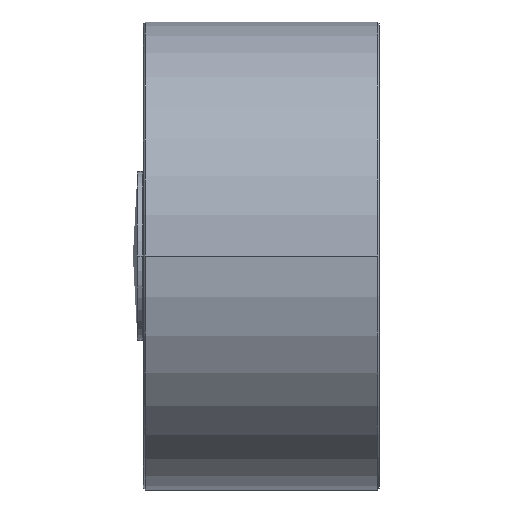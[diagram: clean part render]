
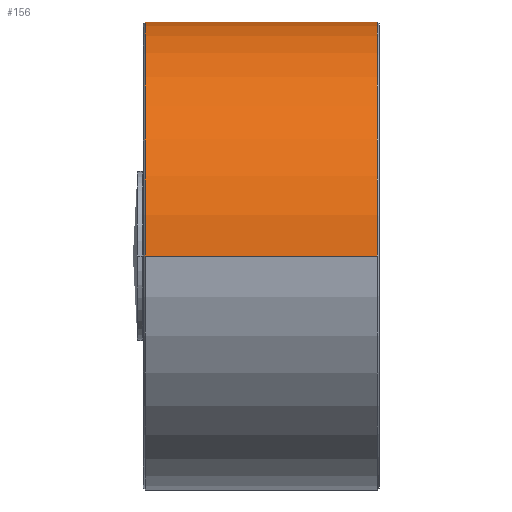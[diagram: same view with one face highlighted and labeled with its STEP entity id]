
A CAD part, left-side view. The second image highlights one B-rep face of the part: STEP entity #156.
In plain terms, the highlighted cylindrical face has radius 59.5 mm (diameter 119 mm), a partial arc.
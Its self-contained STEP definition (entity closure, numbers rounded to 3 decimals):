
#156=ADVANCED_FACE('',(#357),#358,.T.);
#357=FACE_OUTER_BOUND('',#717,.T.);
#358=CYLINDRICAL_SURFACE('',#718,59.5);
#717=EDGE_LOOP('',(#1241,#1242,#1243,#1244,#1245,#1246));
#718=AXIS2_PLACEMENT_3D('',#1247,#1248,#1249);
#1241=ORIENTED_EDGE('',*,*,#2340,.F.);
#1242=ORIENTED_EDGE('',*,*,#2341,.F.);
#1243=ORIENTED_EDGE('',*,*,#2342,.F.);
#1244=ORIENTED_EDGE('',*,*,#2339,.F.);
#1245=ORIENTED_EDGE('',*,*,#2343,.F.);
#1246=ORIENTED_EDGE('',*,*,#2344,.T.);
#1247=CARTESIAN_POINT('',(0.0,30.0,0.0));
#1248=DIRECTION('',(0.0,-1.0,0.0));
#1249=DIRECTION('',(1.0,0.0,0.0));
#2339=EDGE_CURVE('',#2788,#2784,#2790,.T.);
#2340=EDGE_CURVE('',#2791,#2792,#2793,.T.);
#2341=EDGE_CURVE('',#2794,#2791,#2795,.T.);
#2342=EDGE_CURVE('',#2784,#2794,#2796,.T.);
#2343=EDGE_CURVE('',#2797,#2788,#2798,.T.);
#2344=EDGE_CURVE('',#2797,#2792,#2799,.T.);
#2784=VERTEX_POINT('',#3471);
#2788=VERTEX_POINT('',#3476);
#2790=CIRCLE('',#3479,59.5);
#2791=VERTEX_POINT('',#3480);
#2792=VERTEX_POINT('',#3481);
#2793=LINE('',#3482,#3483);
#2794=VERTEX_POINT('',#3484);
#2795=CIRCLE('',#3485,59.5);
#2796=LINE('',#3486,#3487);
#2797=VERTEX_POINT('',#3488);
#2798=LINE('',#3489,#3490);
#2799=B_SPLINE_CURVE_WITH_KNOTS('',3,(#3491,#3492,#3493,#3494,#3495,#3496,#3497,#3498,#3499,#3500,#3501,#3502,#3503,#3504,#3505,#3506,#3507,#3508),.UNSPECIFIED.,.F.,.F.,(4,2,2,2,2,2,2,2,4),(0.98,1.225,1.47,1.715,1.96,2.206,2.451,2.696,2.941),.UNSPECIFIED.);
#3471=CARTESIAN_POINT('',(-59.5,0.5,0.));
#3476=CARTESIAN_POINT('',(59.5,0.5,0.));
#3479=AXIS2_PLACEMENT_3D('',#4421,#4422,#4423);
#3480=CARTESIAN_POINT('',(59.5,59.5,0.));
#3481=CARTESIAN_POINT('',(59.5,15.5,0.));
#3482=CARTESIAN_POINT('',(59.5,30.0,0.));
#3483=VECTOR('',#4424,1.0);
#3484=CARTESIAN_POINT('',(-59.5,59.5,0.));
#3485=AXIS2_PLACEMENT_3D('',#4425,#4426,#4427);
#3486=CARTESIAN_POINT('',(-59.5,30.0,0.));
#3487=VECTOR('',#4428,1.0);
#3488=CARTESIAN_POINT('',(59.5,2.5,0.0));
#3489=CARTESIAN_POINT('',(59.5,30.0,0.));
#3490=VECTOR('',#4429,1.0);
#3491=CARTESIAN_POINT('',(59.5,2.5,0.));
#3492=CARTESIAN_POINT('',(59.5,2.5,0.817));
#3493=CARTESIAN_POINT('',(59.481,2.663,1.688));
#3494=CARTESIAN_POINT('',(59.414,3.327,3.289));
#3495=CARTESIAN_POINT('',(59.367,3.827,4.019));
#3496=CARTESIAN_POINT('',(59.278,4.981,5.173));
#3497=CARTESIAN_POINT('',(59.23,5.711,5.673));
#3498=CARTESIAN_POINT('',(59.163,7.312,6.337));
#3499=CARTESIAN_POINT('',(59.144,8.183,6.5));
#3500=CARTESIAN_POINT('',(59.144,9.817,6.5));
#3501=CARTESIAN_POINT('',(59.163,10.688,6.337));
#3502=CARTESIAN_POINT('',(59.23,12.289,5.673));
#3503=CARTESIAN_POINT('',(59.278,13.019,5.173));
#3504=CARTESIAN_POINT('',(59.367,14.173,4.019));
#3505=CARTESIAN_POINT('',(59.414,14.673,3.289));
#3506=CARTESIAN_POINT('',(59.481,15.337,1.688));
#3507=CARTESIAN_POINT('',(59.5,15.5,0.817));
#3508=CARTESIAN_POINT('',(59.5,15.5,0.));
#4421=CARTESIAN_POINT('',(0.0,0.5,0.0));
#4422=DIRECTION('',(0.0,-1.0,0.0));
#4423=DIRECTION('',(-1.0,0.0,0.0));
#4424=DIRECTION('',(0.0,-1.0,0.0));
#4425=CARTESIAN_POINT('',(0.0,59.5,0.0));
#4426=DIRECTION('',(0.0,1.0,0.0));
#4427=DIRECTION('',(-1.0,0.0,0.0));
#4428=DIRECTION('',(0.0,1.0,0.0));
#4429=DIRECTION('',(0.0,-1.0,0.0));
